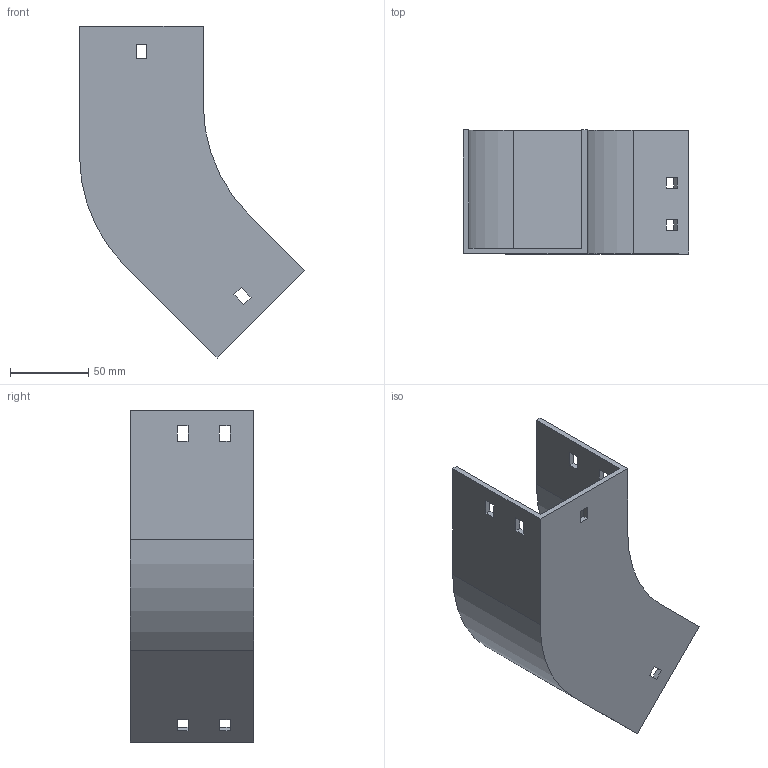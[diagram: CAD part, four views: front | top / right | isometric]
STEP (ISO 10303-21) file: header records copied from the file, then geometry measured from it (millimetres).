
FILE_DESCRIPTION (( 'STEP AP214' ), '1' );
FILE_NAME ('11B1C075.step', '2025-02-21T09:38:29', ( '' ), ( '' ), 'SwSTEP 2.0', 'SolidWorks 2023', '' );
FILE_SCHEMA (( 'AUTOMOTIVE_DESIGN' ));
Length unit declared in the file: millimetre
Products named in the file (1): 11B1C075
Bounding box: 143.64 x 79 x 211.93 mm (x, y, z)
Volume: 168886.7 mm3; surface area: 100764.5 mm2
Topology: 1 solids, 1 shells, 58 faces, 168 edges, 112 vertices
Faces by surface type: plane 54, cylinder 4
Entity records: 1943 total; most frequent: CARTESIAN_POINT 339, ORIENTED_EDGE 336, DIRECTION 294, EDGE_CURVE 168, LINE 160, VECTOR 160, VERTEX_POINT 112, EDGE_LOOP 78
